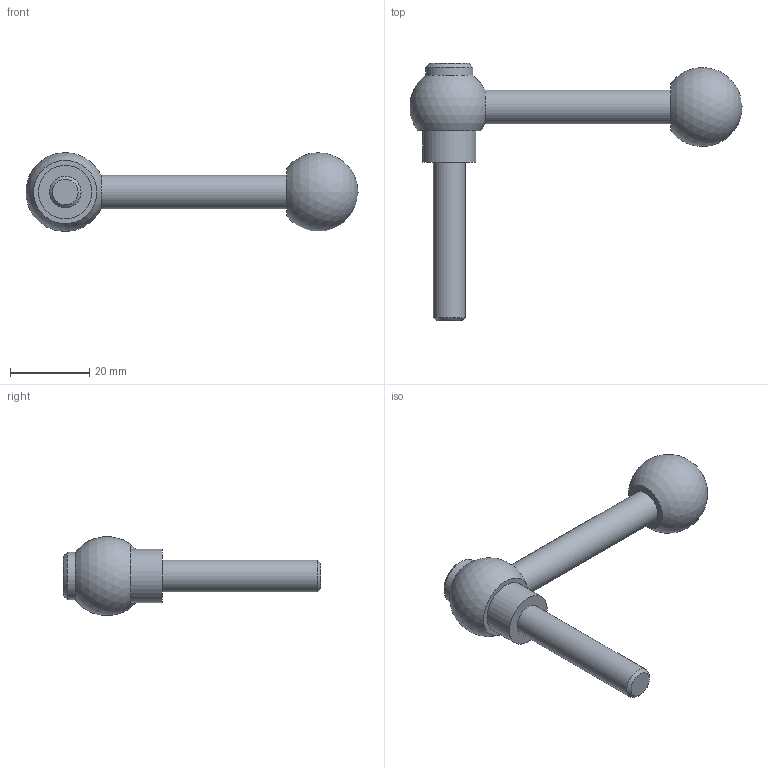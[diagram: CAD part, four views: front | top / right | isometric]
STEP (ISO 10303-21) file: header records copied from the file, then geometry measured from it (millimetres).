
FILE_DESCRIPTION( ( 'STEP AP203' ), '1' );
FILE_NAME( 'C:/Temp/Ganter_Step_05_03_2020/data/2_1/gn_6337_3/gn_6337_3_ms/gn_6337_3_ms_m/Adjustable clamping lever with bolt GN 6337.3-20-M8-40-M.stp', '2020-03-05T11:41:13', ( 'License CC BY-ND 4.0' ), ( 'CADENAS' ), ' ', 'PARTsolutions', ' ' );
FILE_SCHEMA( ( 'CONFIG_CONTROL_DESIGN' ) );
Length unit declared in the file: millimetre
Products named in the file (1): _Adjustable clamping lever with bolt GN 6337.3-20-M8-40-M
Bounding box: 83.92 x 65 x 19.96 mm (x, y, z)
Volume: 13814.4 mm3; surface area: 4997.5 mm2
Topology: 1 solids, 1 shells, 13 faces, 23 edges, 15 vertices
Faces by surface type: plane 5, cylinder 4, cone 2, sphere 2
Full cylindrical faces by diameter (mm): 8 x1, 8.5 x1, 12 x1, 13.5 x1
Entity records: 302 total; most frequent: DIRECTION 52, CARTESIAN_POINT 39, AXIS2_PLACEMENT_3D 26, EDGE_LOOP 24, ORIENTED_EDGE 24, FACE_OUTER_BOUND 18, ADVANCED_FACE 13, VERTEX_POINT 13
